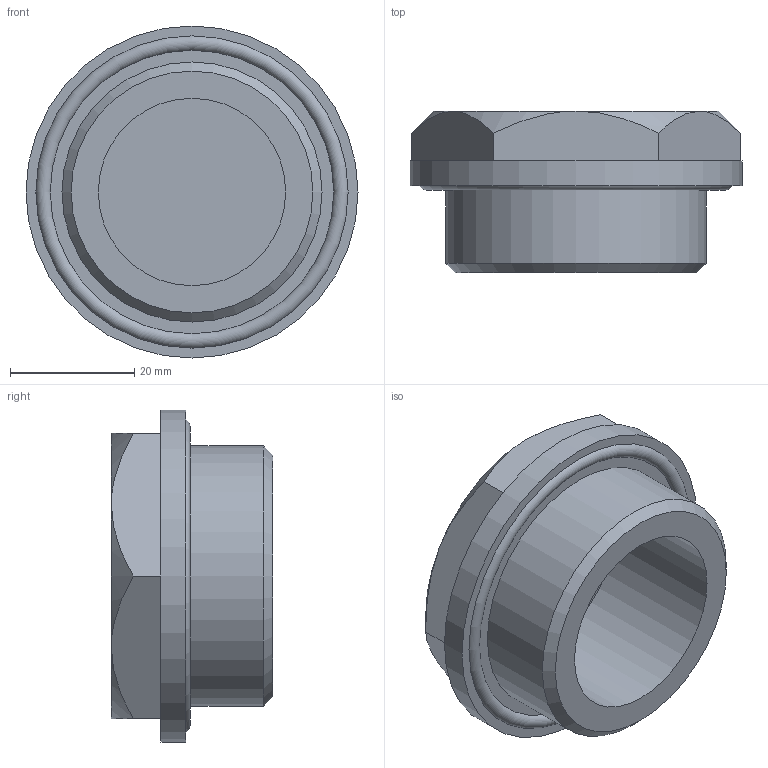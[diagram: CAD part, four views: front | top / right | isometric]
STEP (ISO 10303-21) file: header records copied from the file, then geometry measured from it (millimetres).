
FILE_DESCRIPTION( ( 'STEP AP203' ), '1' );
FILE_NAME( 'C:/Temp/Ganter_Step_05_03_2020/data/3_5/gn740_2/Threaded plug GN 740.2-G11_4.stp', '2020-03-12T13:43:56', ( 'License CC BY-ND 4.0' ), ( 'CADENAS' ), ' ', 'PARTsolutions', ' ' );
FILE_SCHEMA( ( 'CONFIG_CONTROL_DESIGN' ) );
Length unit declared in the file: millimetre
Products named in the file (1): _Threaded plug GN 740.2-G11/4
Bounding box: 53.5 x 26 x 53.5 mm (x, y, z)
Volume: 27196.5 mm3; surface area: 10196.7 mm2
Topology: 1 solids, 1 shells, 52 faces, 124 edges, 81 vertices
Faces by surface type: plane 40, cone 7, cylinder 4, torus 1
Full cylindrical faces by diameter (mm): 30.2 x1, 38 x1, 41.91 x1, 53.5 x1
Entity records: 1557 total; most frequent: CARTESIAN_POINT 348, ORIENTED_EDGE 232, DIRECTION 227, EDGE_CURVE 116, LINE 87, VECTOR 87, VERTEX_POINT 79, AXIS2_PLACEMENT_3D 70
